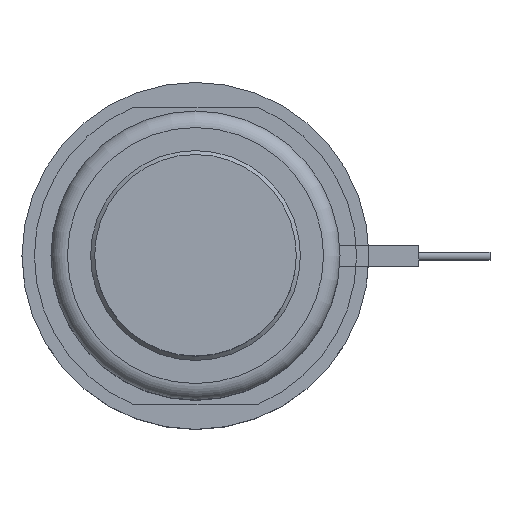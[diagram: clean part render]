
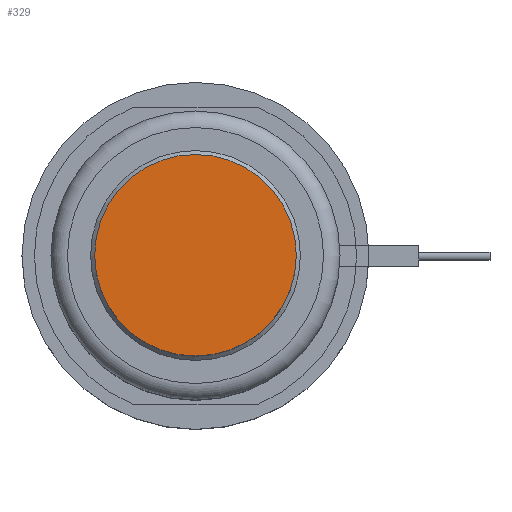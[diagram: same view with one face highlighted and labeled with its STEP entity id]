
A CAD part, top view. The second image highlights one B-rep face of the part: STEP entity #329.
In plain terms, the highlighted planar face has unit normal (0, 0, 1).
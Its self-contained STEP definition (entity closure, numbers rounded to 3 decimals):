
#237=CIRCLE('',#1281,12.2);
#329=ADVANCED_FACE('',(#463),#418,.F.);
#418=PLANE('',#1282);
#463=FACE_OUTER_BOUND('',#532,.T.);
#532=EDGE_LOOP('',(#690));
#690=ORIENTED_EDGE('',*,*,#1047,.F.);
#937=VERTEX_POINT('',#1851);
#1047=EDGE_CURVE('',#937,#937,#237,.T.);
#1281=AXIS2_PLACEMENT_3D('',#1850,#1477,#1478);
#1282=AXIS2_PLACEMENT_3D('',#1852,#1479,#1480);
#1477=DIRECTION('',(0.,0.,-1.));
#1478=DIRECTION('',(-1.,0.,0.));
#1479=DIRECTION('',(0.,0.,-1.));
#1480=DIRECTION('',(-1.,0.,0.));
#1850=CARTESIAN_POINT('',(0.,0.,18.));
#1851=CARTESIAN_POINT('',(-12.2,0.,18.));
#1852=CARTESIAN_POINT('',(0.,0.,18.));
